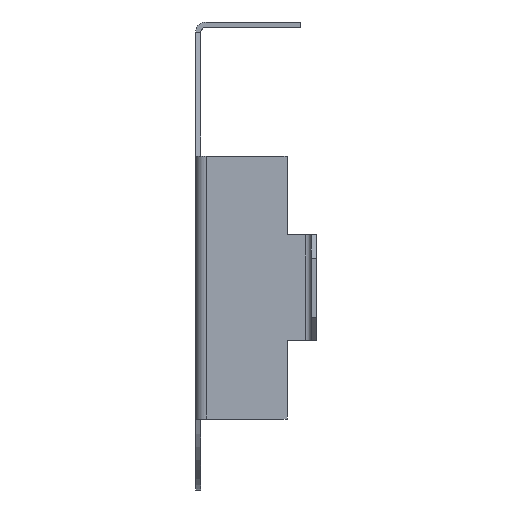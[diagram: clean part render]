
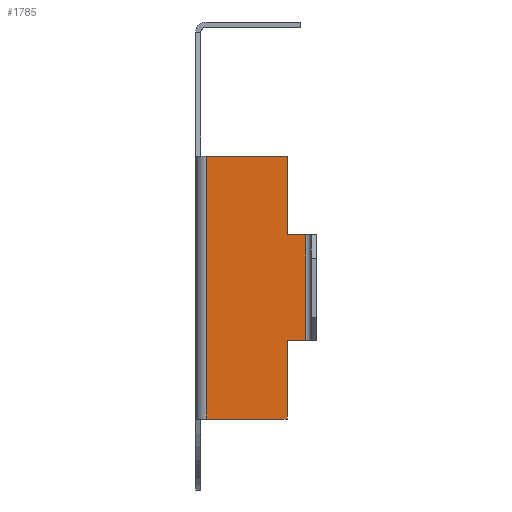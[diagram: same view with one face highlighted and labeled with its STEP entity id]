
A CAD part, left-side view. The second image highlights one B-rep face of the part: STEP entity #1785.
In plain terms, the highlighted planar face has unit normal (-1, 0, 0).
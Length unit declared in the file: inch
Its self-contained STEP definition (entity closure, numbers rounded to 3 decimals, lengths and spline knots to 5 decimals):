
#962 = CARTESIAN_POINT ( 'NONE',  ( -0.5, 0., -0.735 ) ) ;
#963 = PLANE ( 'NONE',  #964 ) ;
#964 = AXIS2_PLACEMENT_3D ( 'NONE', #962, #996, #995 ) ;
#975 = DIRECTION ( 'NONE',  ( 0., 0., 1. ) ) ;
#976 = VECTOR ( 'NONE', #975, 39.37008 ) ;
#987 = CARTESIAN_POINT ( 'NONE',  ( -0.5, -0.164, -0.385 ) ) ;
#988 = LINE ( 'NONE', #987, #1028 ) ;
#995 = DIRECTION ( 'NONE',  ( 0., 1., 0. ) ) ;
#996 = DIRECTION ( 'NONE',  ( 1., 0., 0. ) ) ;
#1023 = DIRECTION ( 'NONE',  ( 0., 0., 1. ) ) ;
#1028 = VECTOR ( 'NONE', #1023, 39.37008 ) ;
#1079 = DIRECTION ( 'NONE',  ( 0., 0., 1. ) ) ;
#1080 = VECTOR ( 'NONE', #1079, 39.37008 ) ;
#1081 = CARTESIAN_POINT ( 'NONE',  ( -0.5, -0.01, -0.735 ) ) ;
#1082 = LINE ( 'NONE', #1081, #1080 ) ;
#1126 = CARTESIAN_POINT ( 'NONE',  ( -0.5, -0.164, -0.585 ) ) ;
#1153 = FACE_OUTER_BOUND ( 'NONE', #1786, .T. ) ;
#1161 = VECTOR ( 'NONE', #1184, 39.37008 ) ;
#1162 = CARTESIAN_POINT ( 'NONE',  ( -0.5, -0.164, -0.735 ) ) ;
#1163 = LINE ( 'NONE', #1162, #1161 ) ;
#1184 = DIRECTION ( 'NONE',  ( 0., -1., 0. ) ) ;
#1201 = LINE ( 'NONE', #1212, #1211 ) ;
#1202 = DIRECTION ( 'NONE',  ( 0., 1., 0. ) ) ;
#1203 = VECTOR ( 'NONE', #1202, 39.37008 ) ;
#1204 = CARTESIAN_POINT ( 'NONE',  ( -0.5, 0., -0.235 ) ) ;
#1205 = LINE ( 'NONE', #1204, #1203 ) ;
#1207 = CARTESIAN_POINT ( 'NONE',  ( -0.5, -0.164, -0.585 ) ) ;
#1208 = LINE ( 'NONE', #1207, #976 ) ;
#1210 = DIRECTION ( 'NONE',  ( 0., 1., 0. ) ) ;
#1211 = VECTOR ( 'NONE', #1210, 39.37008 ) ;
#1212 = CARTESIAN_POINT ( 'NONE',  ( -0.5, -0.2, -0.385 ) ) ;
#1213 = CARTESIAN_POINT ( 'NONE',  ( -0.5, -0.01, -0.735 ) ) ;
#1216 = CARTESIAN_POINT ( 'NONE',  ( -0.5, -0.164, -0.735 ) ) ;
#1220 = DIRECTION ( 'NONE',  ( 0., -1., 0. ) ) ;
#1221 = CARTESIAN_POINT ( 'NONE',  ( -0.5, -0.2, -0.585 ) ) ;
#1222 = LINE ( 'NONE', #1221, #1227 ) ;
#1227 = VECTOR ( 'NONE', #1220, 39.37008 ) ;
#1228 = CARTESIAN_POINT ( 'NONE',  ( -0.5, -0.164, -0.235 ) ) ;
#1244 = CARTESIAN_POINT ( 'NONE',  ( -0.5, -0.01, -0.235 ) ) ;
#1246 = CARTESIAN_POINT ( 'NONE',  ( -0.5, -0.164, -0.385 ) ) ;
#1564 = LINE ( 'NONE', #1587, #1586 ) ;
#1565 = CARTESIAN_POINT ( 'NONE',  ( -0.5, -0.2, -0.385 ) ) ;
#1585 = DIRECTION ( 'NONE',  ( 0., 0., -1. ) ) ;
#1586 = VECTOR ( 'NONE', #1585, 39.37008 ) ;
#1587 = CARTESIAN_POINT ( 'NONE',  ( -0.5, -0.2, -0.735 ) ) ;
#1605 = CARTESIAN_POINT ( 'NONE',  ( -0.5, -0.2, -0.585 ) ) ;
#1763 = EDGE_CURVE ( 'NONE', #1787, #1808, #1082, .T. ) ;
#1765 = ORIENTED_EDGE ( 'NONE', *, *, #1763, .F. ) ;
#1766 = VERTEX_POINT ( 'NONE', #1126 ) ;
#1767 = ORIENTED_EDGE ( 'NONE', *, *, #2588, .F. ) ;
#1777 = ORIENTED_EDGE ( 'NONE', *, *, #1778, .T. ) ;
#1778 = EDGE_CURVE ( 'NONE', #1787, #1803, #1163, .T. ) ;
#1785 = ADVANCED_FACE ( 'NONE', ( #1153 ), #963, .F. ) ;
#1786 = EDGE_LOOP ( 'NONE', ( #1777, #1797, #1809, #1767, #1800, #1804, #1798, #1765 ) ) ;
#1787 = VERTEX_POINT ( 'NONE', #1213 ) ;
#1797 = ORIENTED_EDGE ( 'NONE', *, *, #1802, .T. ) ;
#1798 = ORIENTED_EDGE ( 'NONE', *, *, #1799, .T. ) ;
#1799 = EDGE_CURVE ( 'NONE', #1806, #1808, #1205, .T. ) ;
#1800 = ORIENTED_EDGE ( 'NONE', *, *, #1801, .T. ) ;
#1801 = EDGE_CURVE ( 'NONE', #2583, #1807, #1201, .T. ) ;
#1802 = EDGE_CURVE ( 'NONE', #1803, #1766, #1208, .T. ) ;
#1803 = VERTEX_POINT ( 'NONE', #1216 ) ;
#1804 = ORIENTED_EDGE ( 'NONE', *, *, #1805, .T. ) ;
#1805 = EDGE_CURVE ( 'NONE', #1807, #1806, #988, .T. ) ;
#1806 = VERTEX_POINT ( 'NONE', #1228 ) ;
#1807 = VERTEX_POINT ( 'NONE', #1246 ) ;
#1808 = VERTEX_POINT ( 'NONE', #1244 ) ;
#1809 = ORIENTED_EDGE ( 'NONE', *, *, #1810, .T. ) ;
#1810 = EDGE_CURVE ( 'NONE', #1766, #2575, #1222, .T. ) ;
#2575 = VERTEX_POINT ( 'NONE', #1605 ) ;
#2583 = VERTEX_POINT ( 'NONE', #1565 ) ;
#2588 = EDGE_CURVE ( 'NONE', #2583, #2575, #1564, .T. ) ;
